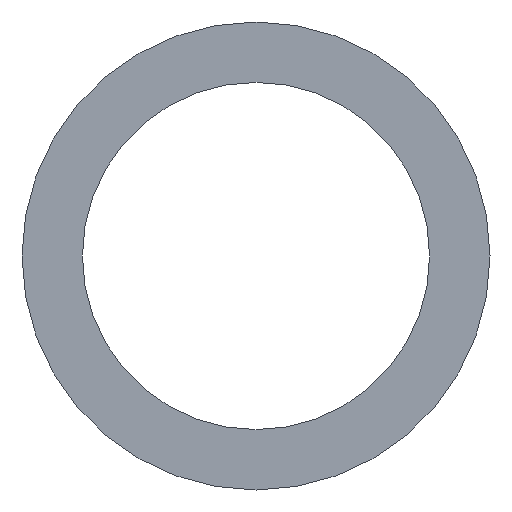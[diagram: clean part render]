
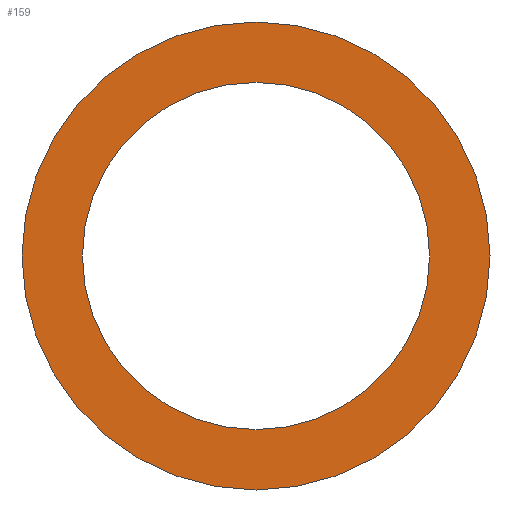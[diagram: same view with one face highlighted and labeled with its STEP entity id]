
A CAD part, left-side view. The second image highlights one B-rep face of the part: STEP entity #159.
In plain terms, the highlighted planar face has unit normal (-1, 0, 0).
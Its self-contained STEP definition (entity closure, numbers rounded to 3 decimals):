
#22 = VERTEX_POINT('',#23);
#23 = CARTESIAN_POINT('',(54.5,0.,99.5));
#32 = CYLINDRICAL_SURFACE('',#33,15.5);
#33 = AXIS2_PLACEMENT_3D('',#34,#35,#36);
#34 = CARTESIAN_POINT('',(54.5,0.,115.));
#35 = DIRECTION('',(1.,0.,0.));
#36 = DIRECTION('',(0.,0.,-1.));
#79 = EDGE_CURVE('',#22,#22,#80,.T.);
#80 = SURFACE_CURVE('',#81,(#86,#93),.PCURVE_S1.);
#81 = CIRCLE('',#82,15.5);
#82 = AXIS2_PLACEMENT_3D('',#83,#84,#85);
#83 = CARTESIAN_POINT('',(54.5,0.,115.));
#84 = DIRECTION('',(1.,-0.,0.));
#85 = DIRECTION('',(0.,0.,-1.));
#86 = PCURVE('',#32,#87);
#87 = DEFINITIONAL_REPRESENTATION('',(#88),#92);
#88 = LINE('',#89,#90);
#89 = CARTESIAN_POINT('',(0.,0.));
#90 = VECTOR('',#91,1.);
#91 = DIRECTION('',(1.,0.));
#92 = ( GEOMETRIC_REPRESENTATION_CONTEXT(2) 
PARAMETRIC_REPRESENTATION_CONTEXT() REPRESENTATION_CONTEXT('2D SPACE',''
  ) );
#93 = PCURVE('',#94,#99);
#94 = PLANE('',#95);
#95 = AXIS2_PLACEMENT_3D('',#96,#97,#98);
#96 = CARTESIAN_POINT('',(54.5,0.,115.));
#97 = DIRECTION('',(1.,0.,0.));
#98 = DIRECTION('',(0.,0.,-1.));
#99 = DEFINITIONAL_REPRESENTATION('',(#100),#104);
#100 = CIRCLE('',#101,15.5);
#101 = AXIS2_PLACEMENT_2D('',#102,#103);
#102 = CARTESIAN_POINT('',(0.,0.));
#103 = DIRECTION('',(1.,0.));
#104 = ( GEOMETRIC_REPRESENTATION_CONTEXT(2) 
PARAMETRIC_REPRESENTATION_CONTEXT() REPRESENTATION_CONTEXT('2D SPACE',''
  ) );
#159 = ADVANCED_FACE('',(#160,#163),#94,.F.);
#160 = FACE_BOUND('',#161,.F.);
#161 = EDGE_LOOP('',(#162));
#162 = ORIENTED_EDGE('',*,*,#79,.T.);
#163 = FACE_BOUND('',#164,.F.);
#164 = EDGE_LOOP('',(#165));
#165 = ORIENTED_EDGE('',*,*,#166,.F.);
#166 = EDGE_CURVE('',#167,#167,#169,.T.);
#167 = VERTEX_POINT('',#168);
#168 = CARTESIAN_POINT('',(54.5,0.,103.5));
#169 = SURFACE_CURVE('',#170,(#175,#182),.PCURVE_S1.);
#170 = CIRCLE('',#171,11.5);
#171 = AXIS2_PLACEMENT_3D('',#172,#173,#174);
#172 = CARTESIAN_POINT('',(54.5,0.,115.));
#173 = DIRECTION('',(1.,0.,0.));
#174 = DIRECTION('',(0.,0.,-1.));
#175 = PCURVE('',#94,#176);
#176 = DEFINITIONAL_REPRESENTATION('',(#177),#181);
#177 = CIRCLE('',#178,11.5);
#178 = AXIS2_PLACEMENT_2D('',#179,#180);
#179 = CARTESIAN_POINT('',(0.,0.));
#180 = DIRECTION('',(1.,0.));
#181 = ( GEOMETRIC_REPRESENTATION_CONTEXT(2) 
PARAMETRIC_REPRESENTATION_CONTEXT() REPRESENTATION_CONTEXT('2D SPACE',''
  ) );
#182 = PCURVE('',#183,#188);
#183 = CYLINDRICAL_SURFACE('',#184,11.5);
#184 = AXIS2_PLACEMENT_3D('',#185,#186,#187);
#185 = CARTESIAN_POINT('',(53.5,0.,115.));
#186 = DIRECTION('',(1.,0.,0.));
#187 = DIRECTION('',(0.,0.,-1.));
#188 = DEFINITIONAL_REPRESENTATION('',(#189),#193);
#189 = LINE('',#190,#191);
#190 = CARTESIAN_POINT('',(0.,1.));
#191 = VECTOR('',#192,1.);
#192 = DIRECTION('',(1.,0.));
#193 = ( GEOMETRIC_REPRESENTATION_CONTEXT(2) 
PARAMETRIC_REPRESENTATION_CONTEXT() REPRESENTATION_CONTEXT('2D SPACE',''
  ) );
